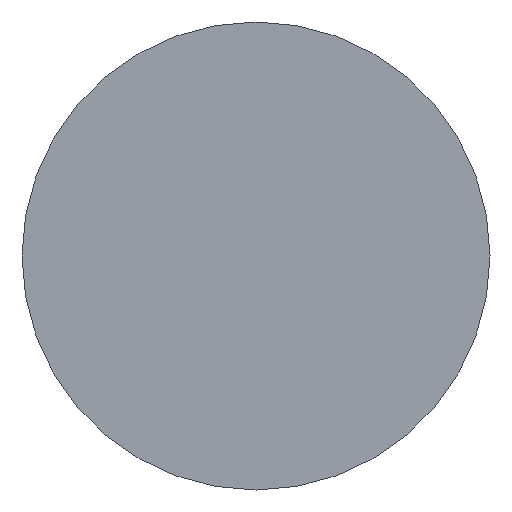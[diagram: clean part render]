
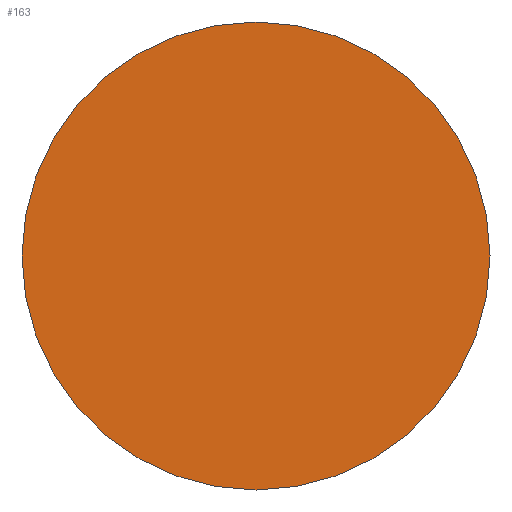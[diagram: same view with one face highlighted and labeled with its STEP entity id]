
A CAD part, left-side view. The second image highlights one B-rep face of the part: STEP entity #163.
In plain terms, the highlighted planar face has unit normal (-1, 0, 0).
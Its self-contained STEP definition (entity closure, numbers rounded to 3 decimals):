
#43 = CYLINDRICAL_SURFACE('',#44,5.);
#44 = AXIS2_PLACEMENT_3D('',#45,#46,#47);
#45 = CARTESIAN_POINT('',(40.,20.,14.25));
#46 = DIRECTION('',(1.,0.,0.));
#47 = DIRECTION('',(-0.,1.,0.));
#109 = VERTEX_POINT('',#110);
#110 = CARTESIAN_POINT('',(39.3,25.,14.25));
#131 = EDGE_CURVE('',#109,#109,#132,.T.);
#132 = SURFACE_CURVE('',#133,(#138,#145),.PCURVE_S1.);
#133 = CIRCLE('',#134,5.);
#134 = AXIS2_PLACEMENT_3D('',#135,#136,#137);
#135 = CARTESIAN_POINT('',(39.3,20.,14.25));
#136 = DIRECTION('',(1.,0.,0.));
#137 = DIRECTION('',(-0.,1.,0.));
#138 = PCURVE('',#43,#139);
#139 = DEFINITIONAL_REPRESENTATION('',(#140),#144);
#140 = LINE('',#141,#142);
#141 = CARTESIAN_POINT('',(0.,-0.7));
#142 = VECTOR('',#143,1.);
#143 = DIRECTION('',(1.,0.));
#144 = ( GEOMETRIC_REPRESENTATION_CONTEXT(2) 
PARAMETRIC_REPRESENTATION_CONTEXT() REPRESENTATION_CONTEXT('2D SPACE',''
  ) );
#145 = PCURVE('',#146,#151);
#146 = PLANE('',#147);
#147 = AXIS2_PLACEMENT_3D('',#148,#149,#150);
#148 = CARTESIAN_POINT('',(39.3,20.,14.25));
#149 = DIRECTION('',(1.,0.,0.));
#150 = DIRECTION('',(-0.,0.,1.));
#151 = DEFINITIONAL_REPRESENTATION('',(#152),#156);
#152 = CIRCLE('',#153,5.);
#153 = AXIS2_PLACEMENT_2D('',#154,#155);
#154 = CARTESIAN_POINT('',(0.,0.));
#155 = DIRECTION('',(0.,-1.));
#156 = ( GEOMETRIC_REPRESENTATION_CONTEXT(2) 
PARAMETRIC_REPRESENTATION_CONTEXT() REPRESENTATION_CONTEXT('2D SPACE',''
  ) );
#163 = ADVANCED_FACE('',(#164),#146,.F.);
#164 = FACE_BOUND('',#165,.F.);
#165 = EDGE_LOOP('',(#166));
#166 = ORIENTED_EDGE('',*,*,#131,.T.);
